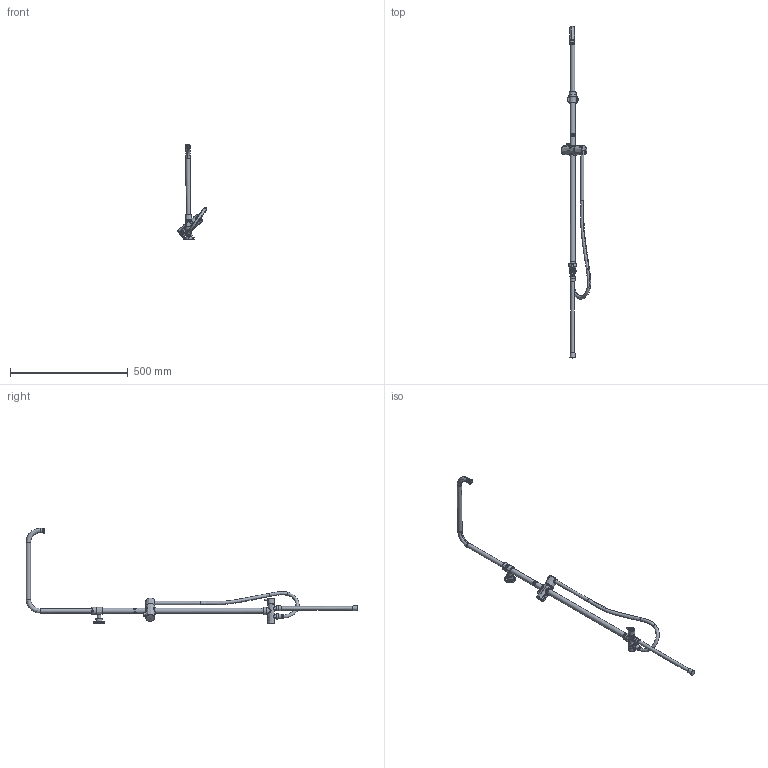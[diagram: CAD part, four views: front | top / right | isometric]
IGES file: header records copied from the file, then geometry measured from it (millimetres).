
Global section: file name: 5901867772176_igs; native system: Autodesk Inventor 2020; preprocessor: unknown; date: 20200727.135440; units: millimetre
Bounding box: 124.99 x 1410.4 x 406.54 mm (x, y, z)
Surface area: 379463.3 mm2 (no closed solid volume)
Topology: 0 solids, 0 shells, 1445 faces, 22830 edges, 22726 vertices
Faces by surface type: bspline 792, revolution 653
